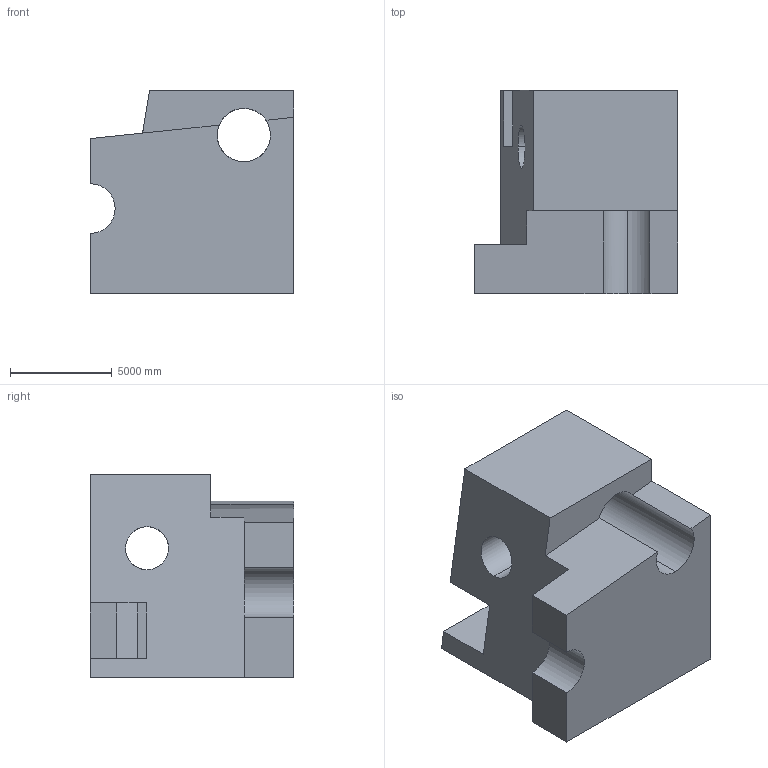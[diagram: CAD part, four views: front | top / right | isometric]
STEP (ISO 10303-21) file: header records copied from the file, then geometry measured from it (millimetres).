
FILE_DESCRIPTION (( 'STEP AP203' ), '1' );
FILE_NAME ('1661.STEP', '2022-08-19T11:28:16', ( 'user' ), ( '' ), 'SwSTEP 2.0', 'SolidWorks 2021', '' );
FILE_SCHEMA (( 'CONFIG_CONTROL_DESIGN' ));
Length unit declared in the file: centimetre
Products named in the file (1): 1661
Bounding box: 10000 x 10000 x 10000 mm (x, y, z)
Volume: 657959561598.8 mm3; surface area: 667585948.8 mm2
Topology: 1 solids, 1 shells, 28 faces, 96 edges, 64 vertices
Faces by surface type: plane 23, cylinder 5
Entity records: 1498 total; most frequent: CARTESIAN_POINT 594, ORIENTED_EDGE 192, DIRECTION 151, EDGE_CURVE 96, LINE 73, VECTOR 73, VERTEX_POINT 64, AXIS2_PLACEMENT_3D 39
